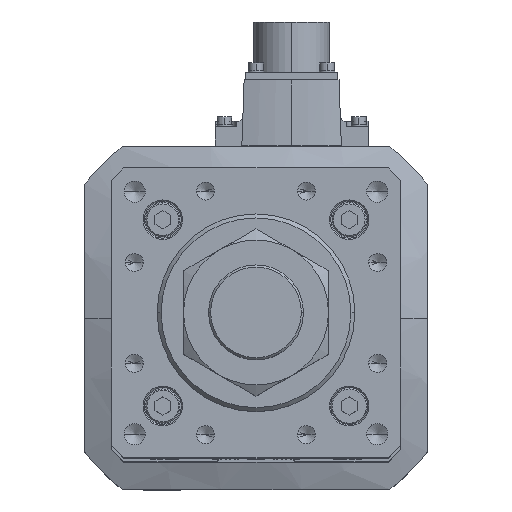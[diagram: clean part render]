
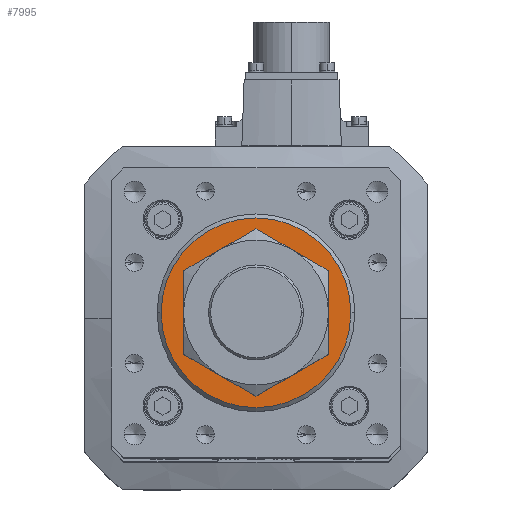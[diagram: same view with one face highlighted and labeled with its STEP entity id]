
A CAD part, top view. The second image highlights one B-rep face of the part: STEP entity #7995.
In plain terms, the highlighted planar face has unit normal (0, 0, 1).
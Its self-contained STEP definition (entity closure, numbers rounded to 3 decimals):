
#2237 = CIRCLE ( 'NONE', #26233, 23. ) ;
#2566 = CARTESIAN_POINT ( 'NONE',  ( 36., 0., 896. ) ) ;
#3026 = CARTESIAN_POINT ( 'NONE',  ( 0., 0., 896. ) ) ;
#3810 = CIRCLE ( 'NONE', #35185, 36. ) ;
#4147 = EDGE_CURVE ( 'NONE', #18542, #8384, #2237, .T. ) ;
#5980 = DIRECTION ( 'NONE',  ( 0., 0., -1. ) ) ;
#7995 = ADVANCED_FACE ( 'NONE', ( #37497, #24742 ), #22919, .T. ) ;
#8384 = VERTEX_POINT ( 'NONE', #10236 ) ;
#8451 = DIRECTION ( 'NONE',  ( 0., 0., 1. ) ) ;
#10236 = CARTESIAN_POINT ( 'NONE',  ( 23., 0., 896. ) ) ;
#11551 = DIRECTION ( 'NONE',  ( 0., 0., -1. ) ) ;
#12659 = CARTESIAN_POINT ( 'NONE',  ( -23., 0., 896. ) ) ;
#12835 = VERTEX_POINT ( 'NONE', #2566 ) ;
#13753 = EDGE_CURVE ( 'NONE', #12835, #26504, #3810, .T. ) ;
#15532 = EDGE_LOOP ( 'NONE', ( #21057, #18633 ) ) ;
#17019 = CIRCLE ( 'NONE', #23538, 23. ) ;
#18264 = ORIENTED_EDGE ( 'NONE', *, *, #32093, .T. ) ;
#18542 = VERTEX_POINT ( 'NONE', #12659 ) ;
#18633 = ORIENTED_EDGE ( 'NONE', *, *, #13753, .T. ) ;
#19965 = DIRECTION ( 'NONE',  ( 1., 0., 0. ) ) ;
#21057 = ORIENTED_EDGE ( 'NONE', *, *, #25602, .T. ) ;
#21346 = DIRECTION ( 'NONE',  ( 0., 0., 1. ) ) ;
#22919 = PLANE ( 'NONE',  #34998 ) ;
#23173 = DIRECTION ( 'NONE',  ( 0., 0., 1. ) ) ;
#23178 = CARTESIAN_POINT ( 'NONE',  ( 0., 0., 896. ) ) ;
#23538 = AXIS2_PLACEMENT_3D ( 'NONE', #23178, #5980, #19965 ) ;
#24742 = FACE_OUTER_BOUND ( 'NONE', #15532, .T. ) ;
#25448 = CARTESIAN_POINT ( 'NONE',  ( -36., 0., 896. ) ) ;
#25522 = DIRECTION ( 'NONE',  ( 1., 0., 0. ) ) ;
#25602 = EDGE_CURVE ( 'NONE', #26504, #12835, #36360, .T. ) ;
#25829 = DIRECTION ( 'NONE',  ( 1., 0., 0. ) ) ;
#26233 = AXIS2_PLACEMENT_3D ( 'NONE', #3026, #11551, #31965 ) ;
#26504 = VERTEX_POINT ( 'NONE', #25448 ) ;
#26951 = AXIS2_PLACEMENT_3D ( 'NONE', #28951, #8451, #25522 ) ;
#27199 = DIRECTION ( 'NONE',  ( 1., 0., 0. ) ) ;
#27325 = CARTESIAN_POINT ( 'NONE',  ( 0., 0., 896. ) ) ;
#28951 = CARTESIAN_POINT ( 'NONE',  ( 0., 0., 896. ) ) ;
#29258 = EDGE_LOOP ( 'NONE', ( #18264, #35189 ) ) ;
#31965 = DIRECTION ( 'NONE',  ( 1., 0., 0. ) ) ;
#32093 = EDGE_CURVE ( 'NONE', #8384, #18542, #17019, .T. ) ;
#34491 = CARTESIAN_POINT ( 'NONE',  ( 0., 0., 896. ) ) ;
#34998 = AXIS2_PLACEMENT_3D ( 'NONE', #34491, #23173, #25829 ) ;
#35185 = AXIS2_PLACEMENT_3D ( 'NONE', #27325, #21346, #27199 ) ;
#35189 = ORIENTED_EDGE ( 'NONE', *, *, #4147, .T. ) ;
#36360 = CIRCLE ( 'NONE', #26951, 36. ) ;
#37497 = FACE_BOUND ( 'NONE', #29258, .T. ) ;
